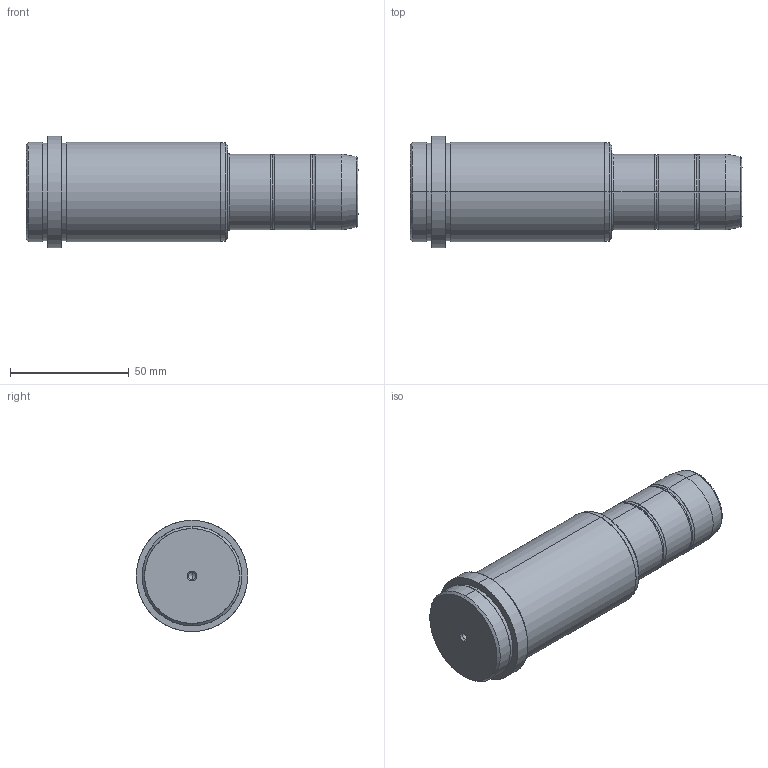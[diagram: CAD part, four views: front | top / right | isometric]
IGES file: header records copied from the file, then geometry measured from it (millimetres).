
Start section: SolidWorks IGES FILE using analytic representation for surfaces
Global section: file name: D:\zzzzz\Delta\D03\32\D03 - 32x76x55.IGS; native system: SolidWorks 2004 by SolidWorks Corporation; preprocessor: Version 5.3; author: Hkn; date: 080327.162214; units: millimetre
Bounding box: 140 x 47 x 47 mm (x, y, z)
Surface area: 20292.9 mm2 (no closed solid volume)
Topology: 0 solids, 0 shells, 56 faces, 1152 edges, 1148 vertices
Faces by surface type: revolution 36, bspline 20
